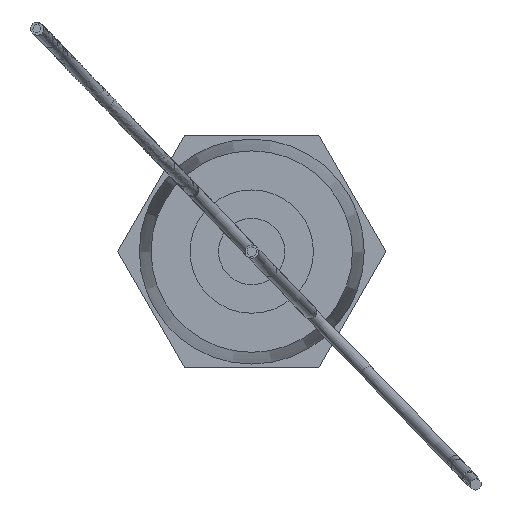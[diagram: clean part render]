
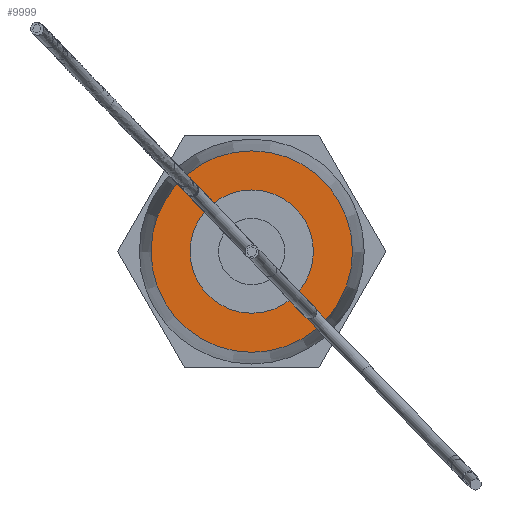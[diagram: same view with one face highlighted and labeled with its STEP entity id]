
A CAD part, left-side view. The second image highlights one B-rep face of the part: STEP entity #9999.
In plain terms, the highlighted planar face has unit normal (-1, 0, 0).
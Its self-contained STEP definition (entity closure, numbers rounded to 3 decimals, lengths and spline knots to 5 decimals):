
#101=FACE_BOUND($,#3441,.T.);
#102=FACE_BOUND($,#3442,.T.);
#355=CIRCLE($,#10445,0.23206);
#364=CIRCLE($,#10463,0.379);
#2361=PLANE($,#10467);
#3441=EDGE_LOOP($,(#8867));
#3442=EDGE_LOOP($,(#8868));
#4817=VERTEX_POINT($,#41736);
#4826=VERTEX_POINT($,#41763);
#6178=EDGE_CURVE($,#4817,#4817,#355,.T.);
#6187=EDGE_CURVE($,#4826,#4826,#364,.T.);
#8867=ORIENTED_EDGE($,*,*,#6178,.T.);
#8868=ORIENTED_EDGE($,*,*,#6187,.T.);
#9999=ADVANCED_FACE($,(#101,#102),#2361,.T.);
#10445=AXIS2_PLACEMENT_3D($,#41737,#12146,#12147);
#10463=AXIS2_PLACEMENT_3D($,#41764,#12182,#12183);
#10467=AXIS2_PLACEMENT_3D($,#41770,#12190,#12191);
#12146=DIRECTION('center_axis',(1.,0.,0.));
#12147=DIRECTION('ref_axis',(0.,-0.5,0.866));
#12182=DIRECTION('center_axis',(-1.,0.,0.));
#12183=DIRECTION('ref_axis',(0.,0.5,-0.866));
#12190=DIRECTION('center_axis',(-1.,0.,0.));
#12191=DIRECTION('ref_axis',(0.,0.5,-0.866));
#41736=CARTESIAN_POINT('',(-4.36664,-0.05979,-0.20097));
#41737=CARTESIAN_POINT('Origin',(-4.36664,-0.17582,0.));
#41763=CARTESIAN_POINT('',(-4.36664,0.01368,-0.32822));
#41764=CARTESIAN_POINT('Origin',(-4.36664,-0.17582,0.));
#41770=CARTESIAN_POINT('Origin',(-4.36664,-0.17582,0.));
